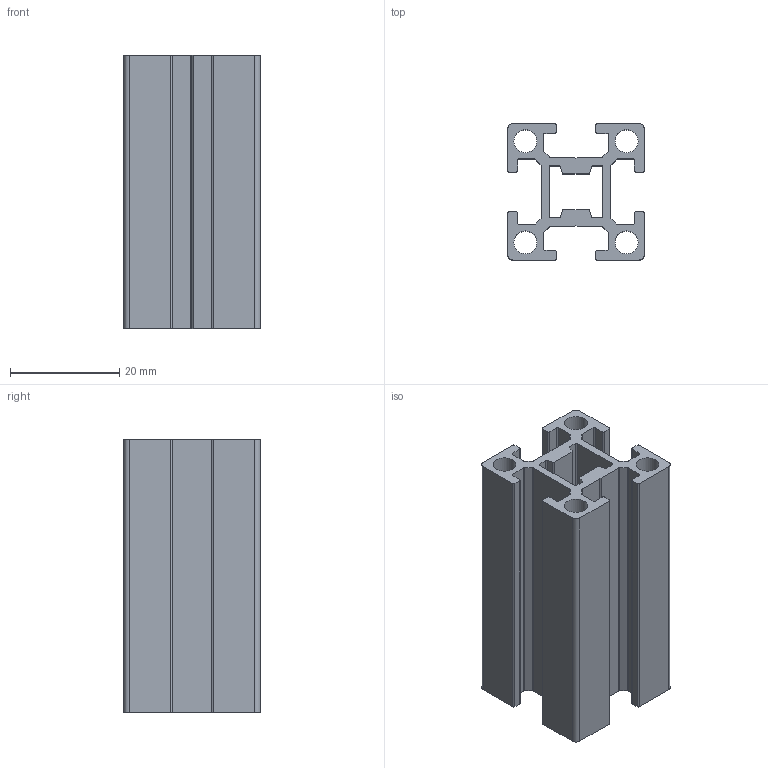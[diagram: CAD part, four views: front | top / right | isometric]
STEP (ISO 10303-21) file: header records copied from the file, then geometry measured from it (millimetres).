
FILE_DESCRIPTION(('STEP AP214'),'1');
FILE_NAME('F25L-.stp','2017-07-14T07:19:57',(' '),(' '),'Spatial InterOp 3D',' ',' ');
FILE_SCHEMA(('automotive_design'));
Length unit declared in the file: millimetre
Products named in the file (1): F25L-
Bounding box: 25 x 25 x 50 mm (x, y, z)
Volume: 11672.2 mm3; surface area: 14107.9 mm2
Topology: 1 solids, 1 shells, 124 faces, 366 edges, 244 vertices
Faces by surface type: plane 64, cylinder 60
Full cylindrical faces by diameter (mm): 4.2 x4
Entity records: 5178 total; most frequent: DIRECTION 732, CARTESIAN_POINT 731, ORIENTED_EDGE 724, EDGE_CURVE 362, AXIS2_PLACEMENT_3D 245, VERTEX_POINT 244, LINE 242, VECTOR 242
